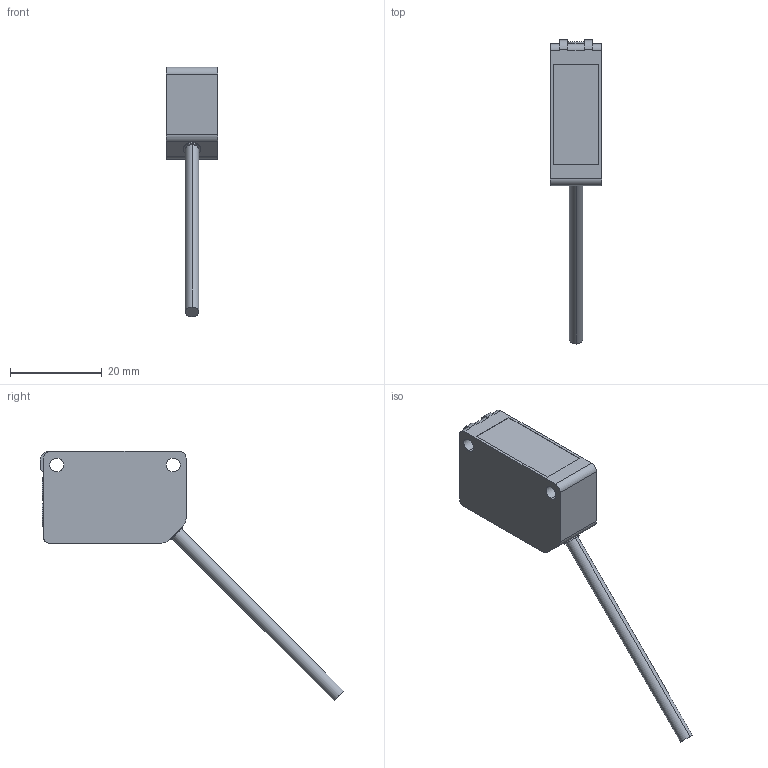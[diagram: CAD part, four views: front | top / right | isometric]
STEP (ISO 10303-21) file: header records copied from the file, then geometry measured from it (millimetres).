
FILE_DESCRIPTION (( 'STEP AP214' ), '1' );
FILE_NAME ('CPG-321,391.STEP', '2022-12-06T02:07:01', ( '' ), ( '' ), 'SwSTEP 2.0', 'SolidWorks 2020', '' );
FILE_SCHEMA (( 'AUTOMOTIVE_DESIGN' ));
Length unit declared in the file: millimetre
Products named in the file (1): CPG-321,391
Bounding box: 11.2 x 66.18 x 54.38 mm (x, y, z)
Volume: 7016.7 mm3; surface area: 3018.2 mm2
Topology: 2 solids, 2 shells, 49 faces, 120 edges, 80 vertices
Faces by surface type: plane 26, cylinder 23
Entity records: 1555 total; most frequent: DIRECTION 266, CARTESIAN_POINT 250, ORIENTED_EDGE 240, EDGE_CURVE 120, AXIS2_PLACEMENT_3D 96, VERTEX_POINT 80, VECTOR 74, LINE 74
